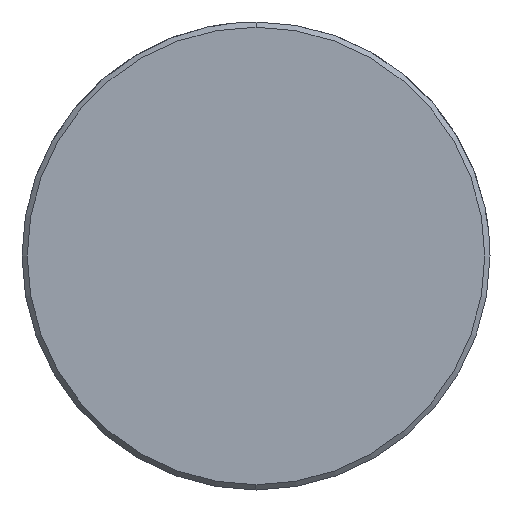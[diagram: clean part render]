
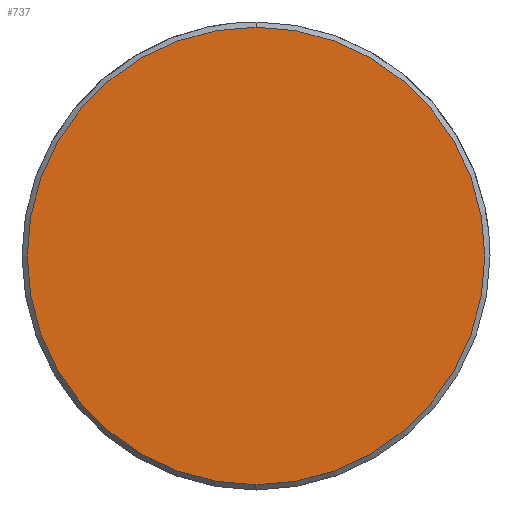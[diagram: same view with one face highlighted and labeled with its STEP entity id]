
A CAD part, left-side view. The second image highlights one B-rep face of the part: STEP entity #737.
In plain terms, the highlighted planar face has unit normal (-1, 0, 0).
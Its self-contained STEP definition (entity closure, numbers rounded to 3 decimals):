
#669=CARTESIAN_POINT('Vertex',(0.,0.,-13.2)) ;
#672=CARTESIAN_POINT('Axis2P3D Location',(0.,0.,0.)) ;
#676=CARTESIAN_POINT('Vertex',(0.,13.2,0.)) ;
#679=CARTESIAN_POINT('Axis2P3D Location',(0.,0.,0.)) ;
#683=CARTESIAN_POINT('Vertex',(0.,0.,13.2)) ;
#705=CARTESIAN_POINT('Axis2P3D Location',(0.,0.,0.)) ;
#709=CARTESIAN_POINT('Vertex',(0.,-13.2,0.)) ;
#712=CARTESIAN_POINT('Axis2P3D Location',(0.,0.,0.)) ;
#726=CARTESIAN_POINT('Axis2P3D Location',(0.,0.,0.)) ;
#673=DIRECTION('Axis2P3D Direction',(1.,0.,-0.)) ;
#680=DIRECTION('Axis2P3D Direction',(1.,0.,-0.)) ;
#706=DIRECTION('Axis2P3D Direction',(1.,0.,-0.)) ;
#713=DIRECTION('Axis2P3D Direction',(1.,0.,-0.)) ;
#727=DIRECTION('Axis2P3D Direction',(1.,0.,-0.)) ;
#728=DIRECTION('Axis2P3D XDirection',(-0.,0.,-1.)) ;
#674=AXIS2_PLACEMENT_3D('Circle Axis2P3D',#672,#673,$) ;
#681=AXIS2_PLACEMENT_3D('Circle Axis2P3D',#679,#680,$) ;
#707=AXIS2_PLACEMENT_3D('Circle Axis2P3D',#705,#706,$) ;
#714=AXIS2_PLACEMENT_3D('Circle Axis2P3D',#712,#713,$) ;
#729=AXIS2_PLACEMENT_3D('Plane Axis2P3D',#726,#727,#728) ;
#732=ORIENTED_EDGE('',*,*,#678,.F.) ;
#733=ORIENTED_EDGE('',*,*,#716,.F.) ;
#734=ORIENTED_EDGE('',*,*,#711,.F.) ;
#735=ORIENTED_EDGE('',*,*,#685,.F.) ;
#737=ADVANCED_FACE('549-24X180',(#736),#730,.F.) ;
#675=CIRCLE('generated circle',#674,13.2) ;
#682=CIRCLE('generated circle',#681,13.2) ;
#708=CIRCLE('generated circle',#707,13.2) ;
#715=CIRCLE('generated circle',#714,13.2) ;
#678=EDGE_CURVE('',#670,#677,#675,.T.) ;
#685=EDGE_CURVE('',#677,#684,#682,.T.) ;
#711=EDGE_CURVE('',#684,#710,#708,.T.) ;
#716=EDGE_CURVE('',#710,#670,#715,.T.) ;
#731=EDGE_LOOP('',(#732,#733,#734,#735)) ;
#736=FACE_OUTER_BOUND('',#731,.T.) ;
#730=PLANE('Plane',#729) ;
#670=VERTEX_POINT('',#669) ;
#677=VERTEX_POINT('',#676) ;
#684=VERTEX_POINT('',#683) ;
#710=VERTEX_POINT('',#709) ;
